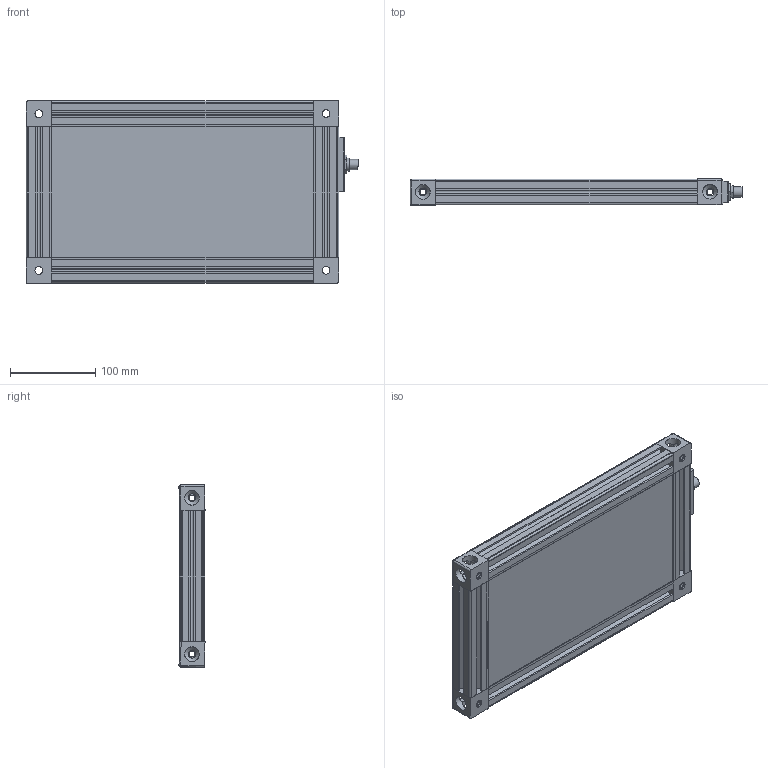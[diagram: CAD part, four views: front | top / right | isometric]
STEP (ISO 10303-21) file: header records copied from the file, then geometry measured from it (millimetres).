
FILE_DESCRIPTION (( 'STEP AP203' ), '1' );
FILE_NAME ('SOBL-300x150.step', '2011-01-10T17:51:45', ( '' ), ( '' ), 'SwSTEP 2.0', 'SolidWorks 2010', '' );
FILE_SCHEMA (( 'CONFIG_CONTROL_DESIGN' ));
Length unit declared in the file: millimetre
Products named in the file (1): SOBL-300x150
Bounding box: 388.35 x 30.48 x 213.52 mm (x, y, z)
Volume: 663736.2 mm3; surface area: 555071.8 mm2
Topology: 17 solids, 17 shells, 742 faces, 2099 edges, 1380 vertices
Faces by surface type: plane 447, cylinder 277, cone 14, sphere 4
Full cylindrical faces by diameter (mm): 0.8 x5, 1.2 x4, 8.4 x2, 9 x12, 12 x1, 15.4 x1, 17.3 x24
Entity records: 23621 total; most frequent: CARTESIAN_POINT 4251, ORIENTED_EDGE 4016, DIRECTION 3978, EDGE_CURVE 2008, VECTOR 1428, LINE 1428, VERTEX_POINT 1356, AXIS2_PLACEMENT_3D 1275
